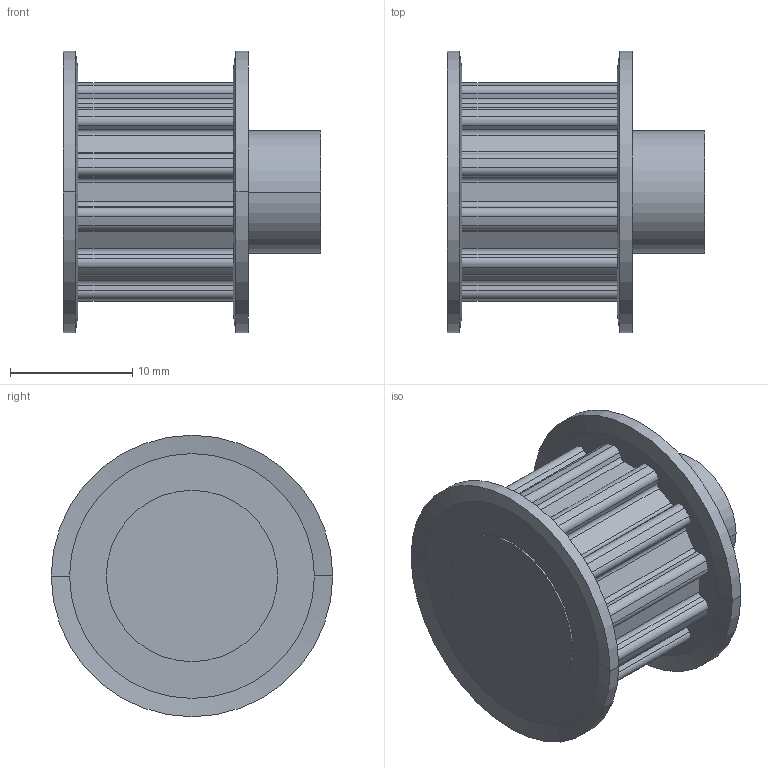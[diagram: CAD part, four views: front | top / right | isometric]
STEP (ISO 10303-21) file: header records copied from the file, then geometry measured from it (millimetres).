
FILE_DESCRIPTION( ( '' ), '1' );
FILE_NAME( 'C:/Users/Stangenbergd/Documents/CAD_Step/1/16221200.stp', '2021-10-19T08:41:34', ( '' ), ( '' ), ' ', ' ', ' ' );
FILE_SCHEMA( ( 'CONFIG_CONTROL_DESIGN' ) );
Length unit declared in the file: millimetre
Products named in the file (1): 1
Bounding box: 21.06 x 23 x 23 mm (x, y, z)
Volume: 4187 mm3; surface area: 2457 mm2
Topology: 1 solids, 1 shells, 121 faces, 334 edges, 220 vertices
Faces by surface type: cylinder 70, plane 43, cone 8
Entity records: 3956 total; most frequent: DIRECTION 726, CARTESIAN_POINT 676, ORIENTED_EDGE 668, EDGE_CURVE 334, AXIS2_PLACEMENT_3D 270, VERTEX_POINT 220, LINE 186, VECTOR 186
